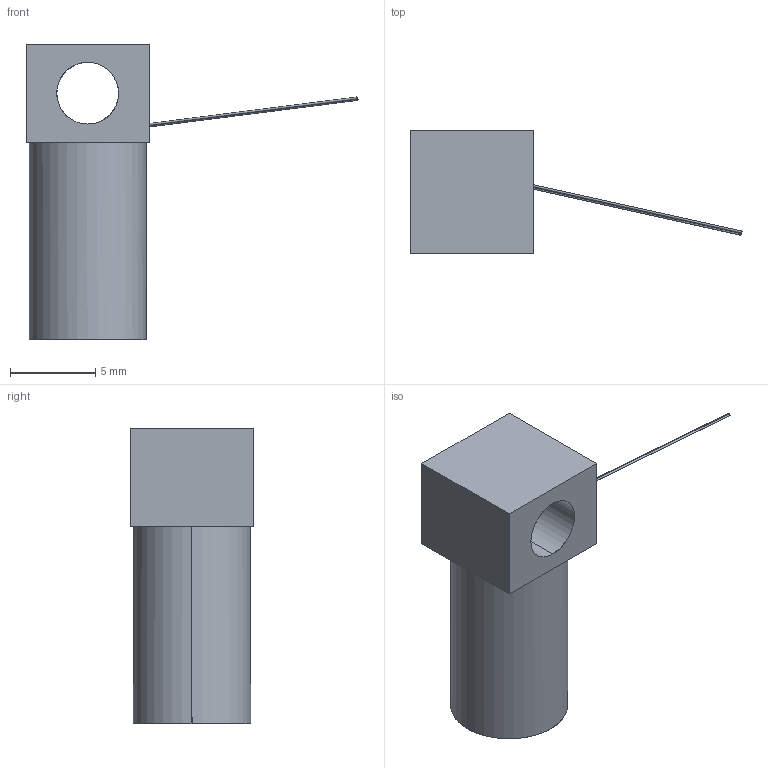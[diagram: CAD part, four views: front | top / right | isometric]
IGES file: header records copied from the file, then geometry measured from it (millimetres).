
Start section: SolidWorks IGES file using analytic representation for surfaces
Global section: file name: C:\Users\jeremy.bluestein\OneDrive - Lake Shore Cryotronics\Sensor Research Support\10 mk sensor\ULT Sensor\RX-102B-RSdefeature.IGS; native system: SolidWorks 2020; preprocessor: SolidWorks 2020; author: Jeremy.Bluestein; date: 210310.104429; units: millimetre
Bounding box: 19.42 x 7.21 x 17.3 mm (x, y, z)
Surface area: 597.5 mm2 (no closed solid volume)
Topology: 0 solids, 0 shells, 30 faces, 394 edges, 394 vertices
Faces by surface type: bspline 23, revolution 7
